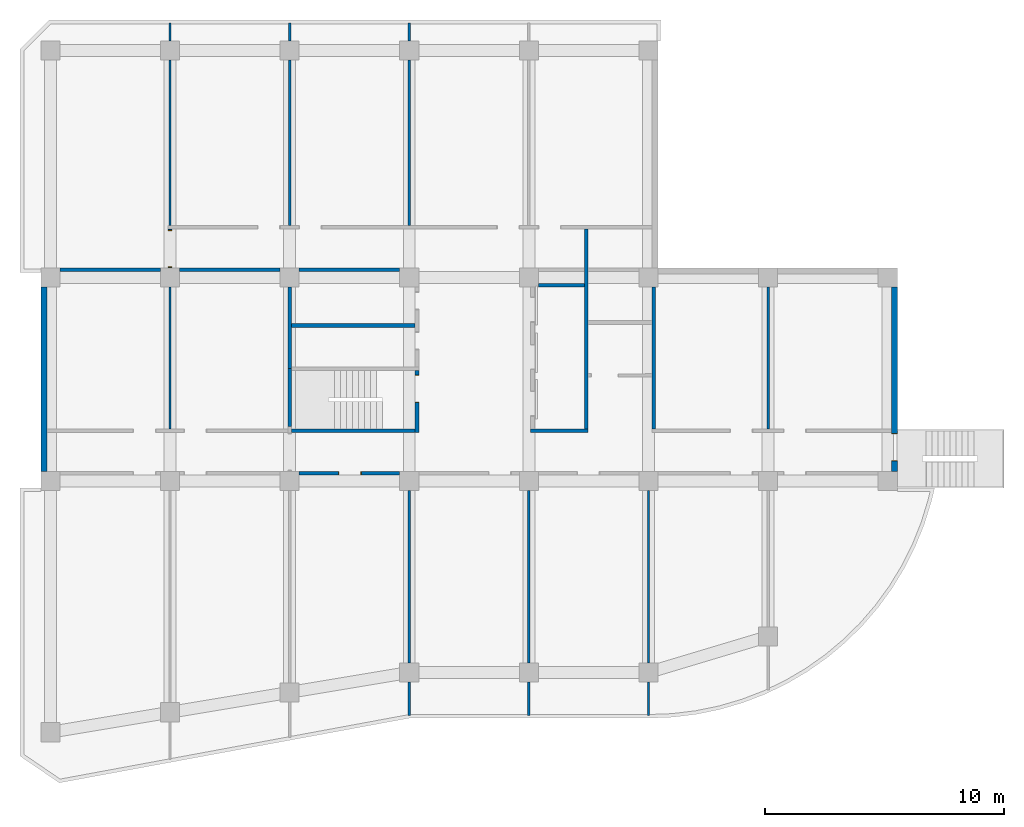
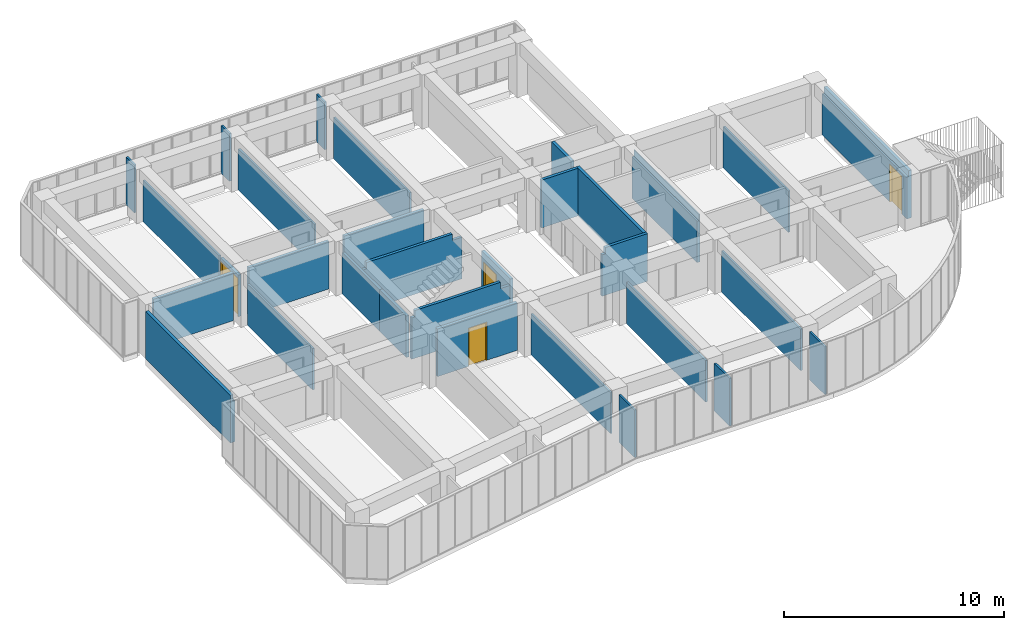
# One storey, part 2 of 5: 24 walls, 4 doors, 4 openings.
"""IFC2X3 building model written with IfcOpenShell, lengths in millimetres."""

import ifcopenshell
import ifcopenshell.guid

model = None  # the IFC model being written
_history = None  # IfcOwnerHistory: only IFC2X3 demands one
_inside = {}  # id of a spatial element -> (the spatial element, [elements in it])
_under = {}  # id of a project, library or spatial element -> (it, [spatial elements below it])
_declared = {}  # id of a project -> (the project, [libraries it declares])
_typed = {}  # id of a type object -> (the type object, [elements of that type])
_made_of = {}  # id of a material, layer set ... -> (it, [elements and type objects made of it])


def new_model(schema):
    """Start an empty IFC model of exactly this schema.

    Asked for "IFC4X3", IfcOpenShell would pick the latest addendum, in which some entities
    have other attributes; the version numbers below select the first issue.
    IFC2X3 requires an IfcOwnerHistory on every rooted entity: one is made here for all.
    """
    global model, _history
    if schema == "IFC4X3":
        model = ifcopenshell.file(schema_version=(4, 3, 0, 0))
    else:
        model = ifcopenshell.file(schema=schema)
    _inside.clear()
    _under.clear()
    _declared.clear()
    _typed.clear()
    _made_of.clear()
    _history = None
    if model.schema == "IFC2X3":
        org = make("IfcOrganization", Name="unknown")
        user = make(
            "IfcPersonAndOrganization",
            ThePerson=make("IfcPerson", FamilyName="unknown"),
            TheOrganization=org,
        )
        app = make(
            "IfcApplication",
            ApplicationDeveloper=org,
            Version="unknown",
            ApplicationFullName="unknown",
            ApplicationIdentifier="unknown",
        )
        _history = make(
            "IfcOwnerHistory",
            OwningUser=user,
            OwningApplication=app,
            ChangeAction="ADDED",
            CreationDate=0,
        )
    return model


def make(cls, **values):
    """One entity of the class cls with the attributes given. An attribute that is None is left unset."""
    return model.create_entity(
        cls, **{name: value for name, value in values.items() if value is not None}
    )


def entity(cls, *values):
    """Any entity or typed value of the class cls, its attributes in the order of the schema. None: left unset."""
    e = model.create_entity(cls)
    for i, value in enumerate(values):
        if value is not None:
            e[i] = value
    return e


def rooted(cls, **values):
    """An entity with a GlobalId (a new one), such as an element, a storey or a relation."""
    return make(cls, GlobalId=ifcopenshell.guid.new(), OwnerHistory=_history, **values)


def si_unit(unit_type, name, prefix=None):
    """IfcSIUnit, for example si_unit("LENGTHUNIT", "METRE", prefix="MILLI")."""
    return make("IfcSIUnit", UnitType=unit_type, Prefix=prefix, Name=name)


def converted_unit(unit_type, name, factor, base, dimensions=None, offset=None):
    """IfcConversionBasedUnit, such as the inch: factor (a typed value) times the base unit."""
    return make(
        "IfcConversionBasedUnit"
        if offset is None
        else "IfcConversionBasedUnitWithOffset",
        ConversionOffset=offset,
        Dimensions=None
        if dimensions is None
        else entity("IfcDimensionalExponents", *dimensions),
        UnitType=unit_type,
        Name=name,
        ConversionFactor=make(
            "IfcMeasureWithUnit", ValueComponent=factor, UnitComponent=base
        ),
    )


def derived_unit(unit_type, elements):
    """IfcDerivedUnit: a product of units, each with its exponent."""
    return make(
        "IfcDerivedUnit",
        Elements=[
            make("IfcDerivedUnitElement", Unit=unit, Exponent=power)
            for unit, power in elements
        ],
        UnitType=unit_type,
    )


def money_unit(currency):
    """IfcMonetaryUnit."""
    return make("IfcMonetaryUnit", Currency=currency)


def assignment(units):
    """IfcUnitAssignment: the units of a project."""
    return None if units is None else make("IfcUnitAssignment", Units=units)


def point(xyz):
    """IfcCartesianPoint."""
    return None if xyz is None else make("IfcCartesianPoint", Coordinates=xyz)


def direction(xyz):
    """IfcDirection."""
    return None if xyz is None else make("IfcDirection", DirectionRatios=xyz)


def frame(location, z_axis=None, x_axis=None):
    """IfcAxis2Placement3D, a coordinate frame: its origin and axes. An axis left out is left unset."""
    return make(
        "IfcAxis2Placement3D",
        Location=point(location),
        Axis=direction(z_axis),
        RefDirection=direction(x_axis),
    )


def origin_with_axes():
    """The frame at (0, 0, 0) with the z axis (0, 0, 1) and the x axis (1, 0, 0) written out."""
    return frame((0.0, 0.0, 0.0), z_axis=(0.0, 0.0, 1.0), x_axis=(1.0, 0.0, 0.0))


def place(relative_to, where):
    """IfcLocalPlacement: puts the frame where relative to a parent placement (None: the world)."""
    return make(
        "IfcLocalPlacement", PlacementRelTo=relative_to, RelativePlacement=where
    )


def context(
    kind, dimensions, precision=None, world=None, true_north=None, identifier=None
):
    """IfcGeometricRepresentationContext, for example the 3D "Model" context."""
    return make(
        "IfcGeometricRepresentationContext",
        ContextIdentifier=identifier,
        ContextType=kind,
        CoordinateSpaceDimension=dimensions,
        Precision=precision,
        WorldCoordinateSystem=world,
        TrueNorth=true_north,
    )


def subcontext(parent, identifier, kind, view, scale=None):
    """IfcGeometricRepresentationSubContext, for example "Body" below "Model"."""
    return make(
        "IfcGeometricRepresentationSubContext",
        ContextIdentifier=identifier,
        ContextType=kind,
        ParentContext=parent,
        TargetScale=scale,
        TargetView=view,
    )


def project(units=None, contexts=None):
    """IfcProject with its units and contexts."""
    return rooted(
        "IfcProject",
        Name="project",
        RepresentationContexts=contexts,
        UnitsInContext=assignment(units),
    )


def spatial(cls, under=None, at=None, **own):
    """A site, building, storey or space (cls), placed at a placement, below another one or the project."""
    s = rooted(cls, ObjectPlacement=at, **own)
    if under is not None:
        _under.setdefault(under.id(), (under, []))[1].append(s)
    return s


def faces_of(points, faces, orient=None, outer=None):
    """IfcFace entities. A face is a list of loops; a loop is a list of indices into points, from 0.

    orient and outer hold one flag for each loop. By default every Orientation is true, the
    first loop of a face is its IfcFaceOuterBound and the others are IfcFaceBound.
    """
    made = []
    for i, loops in enumerate(faces):
        bounds = []
        for j, loop in enumerate(loops):
            is_outer = j == 0 if outer is None else outer[i][j]
            bounds.append(
                make(
                    "IfcFaceOuterBound" if is_outer else "IfcFaceBound",
                    Bound=make("IfcPolyLoop", Polygon=[points[k] for k in loop]),
                    Orientation=True if orient is None else orient[i][j],
                )
            )
        made.append(make("IfcFace", Bounds=bounds))
    return made


def open_shell(faces, orient=None, outer=None):
    """The faces of one IfcOpenShell. surface_model builds it on its shared points."""
    return ("IfcOpenShell", faces, orient, outer)


def faceted_brep(points, faces, orient=None, outer=None, voids=None):
    """IfcFacetedBrep: a solid bounded by flat faces; with voids (closed shells), ...WithVoids."""
    shared = [point(p) for p in points]
    hull = make("IfcClosedShell", CfsFaces=faces_of(shared, faces, orient, outer))
    if voids is None:
        return make("IfcFacetedBrep", Outer=hull)
    return make(
        "IfcFacetedBrepWithVoids",
        Outer=hull,
        Voids=[
            make(cls, CfsFaces=faces_of(shared, fs, o, b)) for cls, fs, o, b in voids
        ],
    )


def surface_model(cls, points, shells):
    """IfcFaceBasedSurfaceModel or IfcShellBasedSurfaceModel (cls): surfaces that need not close."""
    shared = [point(p) for p in points]
    made = [make(c, CfsFaces=faces_of(shared, fs, o, b)) for c, fs, o, b in shells]
    if cls == "IfcFaceBasedSurfaceModel":
        return make(cls, FbsmFaces=made)
    return make(cls, SbsmBoundary=made)


def shape(context_of_items, identifier, shape_type, items):
    """IfcShapeRepresentation: the items that make up one representation, for example the "Body"."""
    return make(
        "IfcShapeRepresentation",
        ContextOfItems=context_of_items,
        RepresentationIdentifier=identifier,
        RepresentationType=shape_type,
        Items=items,
    )


def source(mapping_origin, context_of_items, identifier, shape_type, items):
    """IfcRepresentationMap: a shape defined once, which mapped items show again and again."""
    return make(
        "IfcRepresentationMap",
        MappingOrigin=mapping_origin,
        MappedRepresentation=shape(context_of_items, identifier, shape_type, items),
    )


def transform(
    local_origin,
    x_axis=None,
    y_axis=None,
    z_axis=None,
    scale=None,
    scale2=None,
    scale3=None,
    uniform=True,
):
    """IfcCartesianTransformationOperator3D, or its non-uniform kind. x_axis, y_axis, z_axis: its Axis1, 2, 3."""
    if uniform:
        return make(
            "IfcCartesianTransformationOperator3D",
            Axis1=direction(x_axis),
            Axis2=direction(y_axis),
            LocalOrigin=point(local_origin),
            Scale=scale,
            Axis3=direction(z_axis),
        )
    return make(
        "IfcCartesianTransformationOperator3DnonUniform",
        Axis1=direction(x_axis),
        Axis2=direction(y_axis),
        LocalOrigin=point(local_origin),
        Scale=scale,
        Axis3=direction(z_axis),
        Scale2=scale2,
        Scale3=scale3,
    )


def mapped(mapping_source, mapping_target):
    """IfcMappedItem: shows the shape of a source again, moved by a transform."""
    return make(
        "IfcMappedItem", MappingSource=mapping_source, MappingTarget=mapping_target
    )


def material(Name=None, Category=None):
    """IfcMaterial."""
    return make("IfcMaterial", Name=Name, Category=Category)


def made_of(thing, what):
    """Note that an element or type object is made of a material, layer set ...; save() writes the relation."""
    if what is not None:
        _made_of.setdefault(what.id(), (what, []))[1].append(thing)
    return thing


def type_object(cls, material=None, **own):
    """A type object (cls), such as IfcWallType, which elements share."""
    return made_of(rooted(cls, **own), material)


def element(
    cls,
    number,
    at=None,
    inside=None,
    cuts=None,
    type_object=None,
    material=None,
    context=None,
    identifier="Body",
    shape_type=None,
    held_by="IfcProductDefinitionShape",
    body=None,
    shapes=None,
    **own,
):
    """One element of the class cls, such as IfcWall. Its Tag is "e" and its number.

    at: its placement. inside: the storey or other place that contains it. cuts: it is an
    opening in that element (IfcRelVoidsElement). A single representation is given by context,
    identifier, shape_type and body (its items); several are given by shapes. held_by: the class
    of the entity that holds the representations. save() writes the other relations.
    """
    e = rooted(cls, Tag="e%d" % number, ObjectPlacement=at, **own)
    if body is not None:
        shapes = [shape(context, identifier, shape_type, body)]
    if shapes is not None:
        e.Representation = make(held_by, Representations=shapes)
    if inside is not None:
        _inside.setdefault(inside.id(), (inside, []))[1].append(e)
    if cuts is not None:
        rooted(
            "IfcRelVoidsElement", RelatingBuildingElement=cuts, RelatedOpeningElement=e
        )
    if type_object is not None:
        _typed.setdefault(type_object.id(), (type_object, []))[1].append(e)
    return made_of(e, material)


def fill(opening, filler):
    """IfcRelFillsElement: the door or window that sits in an opening."""
    return rooted(
        "IfcRelFillsElement",
        RelatingOpeningElement=opening,
        RelatedBuildingElement=filler,
    )


def aggregate(whole, parts):
    """IfcRelAggregates: a whole, such as a stair, and the parts it consists of."""
    return rooted("IfcRelAggregates", RelatingObject=whole, RelatedObjects=parts)


def save(model, path):
    """Write the relations noted so far, then the file.

    IfcRelAggregates (storeys below a building ...), IfcRelContainedInSpatialStructure (elements
    in a storey), IfcRelDefinesByType, IfcRelAssociatesMaterial and IfcRelDeclares: one each for
    every whole, place, type object, material and project.
    """
    for whole, parts in _under.values():
        aggregate(whole, parts)
    for where, things in _inside.values():
        rooted(
            "IfcRelContainedInSpatialStructure",
            RelatedElements=things,
            RelatingStructure=where,
        )
    for kind, things in _typed.values():
        rooted("IfcRelDefinesByType", RelatedObjects=things, RelatingType=kind)
    for what, things in _made_of.values():
        rooted("IfcRelAssociatesMaterial", RelatedObjects=things, RelatingMaterial=what)
    for by, libraries in _declared.values():
        rooted("IfcRelDeclares", RelatingContext=by, RelatedDefinitions=libraries)
    model.write(path)


model = new_model("IFC2X3")

# Units and contexts
model_context = context("Model", 3, precision=0.01, world=origin_with_axes(), true_north=direction((0.0, 1.0)))
body_context = subcontext(model_context, "Body", "Model", "MODEL_VIEW")
ifc_project = project(units=[si_unit("LENGTHUNIT", "METRE", prefix="MILLI"), si_unit("AREAUNIT", "SQUARE_METRE"), si_unit("VOLUMEUNIT", "CUBIC_METRE"), converted_unit("PLANEANGLEUNIT", "DEGREE", entity("IfcPlaneAngleMeasure", 0.0174532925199), si_unit("PLANEANGLEUNIT", "RADIAN"), dimensions=[0, 0, 0, 0, 0, 0, 0]), si_unit("SOLIDANGLEUNIT", "STERADIAN"), money_unit("JPY"), converted_unit("TIMEUNIT", "Year", entity("IfcTimeMeasure", 31556926.0), si_unit("TIMEUNIT", "SECOND"), dimensions=[0, 0, 1, 0, 0, 0, 0]), si_unit("MASSUNIT", "GRAM", prefix="KILO"), si_unit("THERMODYNAMICTEMPERATUREUNIT", "DEGREE_CELSIUS"), si_unit("LUMINOUSINTENSITYUNIT", "LUMEN"), si_unit("ENERGYUNIT", "JOULE", prefix="MEGA"), derived_unit("THERMALCONDUCTANCEUNIT", [(si_unit("POWERUNIT", "WATT"), 1), (si_unit("LENGTHUNIT", "METRE"), -1), (si_unit("THERMODYNAMICTEMPERATUREUNIT", "KELVIN"), -1)]), derived_unit("SPECIFICHEATCAPACITYUNIT", [(si_unit("ENERGYUNIT", "JOULE"), 1), (si_unit("MASSUNIT", "GRAM", prefix="KILO"), -1), (si_unit("THERMODYNAMICTEMPERATUREUNIT", "KELVIN"), -1)]), derived_unit("MASSDENSITYUNIT", [(si_unit("MASSUNIT", "GRAM", prefix="KILO"), 1), (si_unit("VOLUMEUNIT", "CUBIC_METRE"), -1)])], contexts=[model_context])

# Site, building, storey
site_placement = place(None, origin_with_axes())
site = spatial("IfcSite", under=ifc_project, at=site_placement, Name="サイト", CompositionType="ELEMENT")
building_placement = place(site_placement, origin_with_axes())
building = spatial("IfcBuilding", under=site, at=building_placement, Name="建築", CompositionType="ELEMENT")
storey_placement = place(building_placement, frame((0.0, 0.0, 21000.0), z_axis=(0.0, 0.0, 1.0), x_axis=(1.0, 0.0, 0.0)))
storey = spatial("IfcBuildingStorey", under=building, at=storey_placement, Name="8FL", CompositionType="ELEMENT", Elevation=21000.0)

# Wall
ifc_material_1 = material(Name="コンクリート")
wall_type_1 = type_object("IfcWallType", Name="コンクリート 150", PredefinedType="NOTDEFINED")
wall_1_placement = place(storey_placement, frame((20150.0, 8175.0, 0.0), z_axis=(0.0, 0.0, 1.0), x_axis=(1.0, 0.0, 0.0)))
element("IfcWall", 1, at=wall_1_placement, inside=storey, type_object=wall_type_1, material=ifc_material_1, Name="8FLW8", context=body_context, shape_type="Brep", body=[
    faceted_brep([(2175.0, 75.0, 0.0), (250.0, 75.0, 0.0), (250.0, 75.0, 2650.0), (2175.0, 75.0, 2650.0), (2175.0, -75.0, 0.0), (250.0, -75.0, 0.0), (250.0, -75.0, 2650.0), (2175.0, -75.0, 2650.0)], [[[0, 1, 2, 3]], [[4, 5, 1, 0]], [[5, 6, 2, 1]], [[3, 2, 6, 7]], [[7, 4, 0, 3]], [[7, 6, 5, 4]]]),
])

# Wall, opening, door
wall_2_placement = place(storey_placement, frame((15324.9999955, 2100.0, 0.0), z_axis=(0.0, 0.0, 1.0), x_axis=(0.0, 1.0, 0.0)))
wall_2 = element("IfcWall", 2, at=wall_2_placement, inside=storey, type_object=wall_type_1, material=ifc_material_1, Name="8FLW4", context=body_context, shape_type="Brep", body=[
    faceted_brep([(1180.0, -75.0, 0.0), (1180.0, -75.0, 2130.0), (2340.0, -75.0, 2130.0), (2340.0, -75.0, 0.0), (2525.0, -75.0, 0.0), (2525.0, -75.0, 2650.0), (-75.0, -75.0, 2650.0), (-75.0, -75.0, 0.0), (1180.0, 75.0, 0.0), (1180.0, 75.0, 2130.0), (2340.0, 75.0, 2130.0), (2340.0, 75.0, 0.0), (2525.0, 75.0, 0.0), (2525.0, 75.0, 2650.0), (-75.0, 75.0, 2650.0), (-75.0, 75.0, 0.0)], [[[0, 1, 2, 3, 4, 5, 6, 7]], [[1, 0, 8, 9]], [[2, 1, 9, 10]], [[3, 2, 10, 11]], [[3, 11, 12, 4]], [[12, 13, 5, 4]], [[14, 6, 5, 13]], [[7, 6, 14, 15]], [[8, 0, 7, 15]], [[9, 8, 15, 14, 13, 12, 11, 10]]]),
])
opening_1_placement = place(wall_2_placement, frame((1760.0, 0.0, 0.0), z_axis=(0.0, 0.0, 1.0), x_axis=(1.0, 0.0, 0.0)))
opening_1 = element("IfcOpeningElement", 3, at=opening_1_placement, cuts=wall_2, Name="8FLFSD2", context=body_context, shape_type="Brep", body=[
    faceted_brep([(-580.0, -160.0, 0.0), (-580.0, -160.0, 2130.0), (-580.0, 160.0, 2130.0), (-580.0, 160.0, 0.0), (580.0, -160.0, 0.0), (580.0, -160.0, 2130.0), (580.0, 160.0, 2130.0), (580.0, 160.0, 0.0)], [[[0, 1, 2, 3]], [[0, 4, 5, 1]], [[1, 5, 6, 2]], [[3, 2, 6, 7]], [[4, 0, 3, 7]], [[5, 4, 7, 6]]]),
])
door_style_1 = type_object("IfcDoorStyle", Name="片開き戸", ConstructionType="NOTDEFINED", OperationType="NOTDEFINED", ParameterTakesPrecedence=False, Sizeable=False)
shared_shape_1 = source(origin_with_axes(), body_context, "Body", "SurfaceModel", [
    surface_model("IfcShellBasedSurfaceModel", [(-550.0, -85.0, 0.0), (-550.0, -85.0, 2100.0), (550.0, -85.0, 2100.0), (550.0, -85.0, 0.0)], [open_shell([[[0, 1, 2, 3]]])]),
    surface_model("IfcShellBasedSurfaceModel", [(-580.0, -10.0, 0.0), (-580.0, -10.0, 2130.0), (580.0, -10.0, 2130.0), (580.0, -10.0, 0.0), (550.0, -10.0, 0.0), (550.0, -10.0, 2100.0), (-550.0, -10.0, 2100.0), (-550.0, -10.0, 0.0)], [open_shell([[[0, 1, 2, 3, 4, 5, 6, 7]]])]),
    surface_model("IfcShellBasedSurfaceModel", [(-580.0, -160.0, 0.0), (-580.0, -160.0, 2130.0), (580.0, -160.0, 2130.0), (580.0, -160.0, 0.0), (550.0, -160.0, 0.0), (550.0, -160.0, 2100.0), (-550.0, -160.0, 2100.0), (-550.0, -160.0, 0.0)], [open_shell([[[0, 1, 2, 3, 4, 5, 6, 7]]])]),
    surface_model("IfcShellBasedSurfaceModel", [(-550.0, -10.0, 0.0), (-550.0, -10.0, 2100.0), (-550.0, -160.0, 2100.0), (-550.0, -160.0, 0.0), (550.0, -10.0, 2100.0), (550.0, -160.0, 2100.0), (-580.0, -10.0, 0.0), (-580.0, -160.0, 0.0), (550.0, -10.0, 0.0), (550.0, -160.0, 0.0), (-580.0, -10.0, 2130.0), (-580.0, -160.0, 2130.0), (580.0, -10.0, 0.0), (580.0, -160.0, 0.0), (580.0, -10.0, 2130.0), (580.0, -160.0, 2130.0)], [open_shell([[[0, 1, 2, 3]], [[1, 4, 5, 2]], [[6, 0, 3, 7]], [[4, 8, 9, 5]], [[10, 6, 7, 11]], [[8, 12, 13, 9]], [[14, 10, 11, 15]], [[12, 14, 15, 13]]])]),
])
door_1_placement = place(opening_1_placement, frame((-550.0, 0.0, 0.0), z_axis=(0.0, 0.0, 1.0), x_axis=(1.0, 0.0, 0.0)))
door_1 = element("IfcDoor", 4, at=door_1_placement, inside=storey, type_object=door_style_1, Name="8FLFSD2", OverallHeight=2165.0, OverallWidth=1230.0, context=body_context, shape_type="MappedRepresentation", body=[
    mapped(shared_shape_1, transform((550.0, 85.0, 0.0))),
])
fill(opening_1, door_1)

# Wall
wall_3_placement = place(storey_placement, frame((10000.0, 6500.0, 0.0), z_axis=(0.0, 0.0, 1.0), x_axis=(1.0, 0.0, 0.0)))
element("IfcWall", 5, at=wall_3_placement, inside=storey, type_object=wall_type_1, material=ifc_material_1, Name="8FLW5", context=body_context, shape_type="Brep", body=[
    faceted_brep([(75.0, 75.0, 0.0), (75.0, 75.0, 2300.0), (250.0, 75.0, 2300.0), (250.0, 75.0, 2650.0), (4750.0, 75.0, 2650.0), (4750.0, 75.0, 2300.0), (5250.0, 75.0, 2300.0), (5249.99999555, 75.0, 0.0), (75.0, -75.0, 0.0), (75.0, -75.0, 2300.0), (250.0, -75.0, 2300.0), (250.0, -75.0, 2650.0), (4750.0, -75.0, 2650.0), (4750.0, -75.0, 2300.0), (5250.0, -75.0, 2300.0), (5249.99999555, -75.0, 0.0)], [[[0, 1, 2, 3, 4, 5, 6, 7]], [[8, 9, 1, 0]], [[10, 2, 1, 9]], [[10, 11, 3, 2]], [[4, 3, 11, 12]], [[13, 5, 4, 12]], [[13, 14, 6, 5]], [[7, 6, 14, 15]], [[8, 0, 7, 15]], [[11, 10, 9, 8, 15, 14, 13, 12]]]),
])

# Wall, opening, door
wall_4_placement = place(storey_placement, frame((10000.0, 324.999998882, 0.0), z_axis=(0.0, 0.0, 1.0), x_axis=(1.0, 0.0, 0.0)))
wall_4 = element("IfcWall", 6, at=wall_4_placement, inside=storey, type_object=wall_type_1, material=ifc_material_1, Name="8FLW4", context=body_context, shape_type="Brep", body=[
    faceted_brep([(2034.99999315, 75.0000011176, 2130.0), (2034.99999315, 75.0000011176, 0.0), (400.0, 75.0000011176, 0.0), (400.0, 75.0000011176, 2650.0), (4600.0, 75.0000011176, 2650.0), (4600.0, 75.0000011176, 0.0), (2994.99999315, 75.0000011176, 0.0), (2994.99999315, 75.0000011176, 2130.0), (2034.99999315, -74.9999988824, 2130.0), (2034.99999315, -75.0, 0.0), (400.0, -75.0, 0.0), (400.0, -74.9999988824, 2650.0), (4600.0, -74.9999988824, 2650.0), (4600.0, -75.0, 0.0), (2994.99999315, -75.0, 0.0), (2994.99999315, -74.9999988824, 2130.0)], [[[0, 1, 2, 3, 4, 5, 6, 7]], [[1, 0, 8, 9]], [[1, 9, 10, 2]], [[11, 3, 2, 10]], [[3, 11, 12, 4]], [[5, 4, 12, 13]], [[14, 6, 5, 13]], [[7, 6, 14, 15]], [[0, 7, 15, 8]], [[15, 14, 13, 12, 11, 10, 9, 8]]]),
])
opening_2_placement = place(wall_4_placement, frame((2514.99999315, 0.0, 0.0), z_axis=(0.0, 0.0, 1.0), x_axis=(1.0, 0.0, 0.0)))
opening_2 = element("IfcOpeningElement", 7, at=opening_2_placement, cuts=wall_4, Name="8FLSD7", context=body_context, shape_type="Brep", body=[
    faceted_brep([(480.0, 160.0, 0.0), (480.0, 160.0, 2130.0), (480.0, -160.0, 2130.0), (480.0, -160.0, 0.0), (-480.0, 160.0, 0.0), (-480.0, 160.0, 2130.0), (-480.0, -160.0, 2130.0), (-480.0, -160.0, 0.0)], [[[0, 1, 2, 3]], [[0, 4, 5, 1]], [[1, 5, 6, 2]], [[3, 2, 6, 7]], [[4, 0, 3, 7]], [[5, 4, 7, 6]]]),
])
shared_shape_2 = source(origin_with_axes(), body_context, "Body", "SurfaceModel", [
    surface_model("IfcShellBasedSurfaceModel", [(-450.0, 85.0, 0.0), (-450.0, 85.0, 2100.0), (450.0, 85.0, 2100.0), (450.0, 85.0, 0.0)], [open_shell([[[0, 1, 2, 3]]])]),
    surface_model("IfcShellBasedSurfaceModel", [(-480.0, 160.0, 0.0), (-480.0, 160.0, 2130.0), (480.0, 160.0, 2130.0), (480.0, 160.0, 0.0), (450.0, 160.0, 0.0), (450.0, 160.0, 2100.0), (-450.0, 160.0, 2100.0), (-450.0, 160.0, 0.0)], [open_shell([[[0, 1, 2, 3, 4, 5, 6, 7]]])]),
    surface_model("IfcShellBasedSurfaceModel", [(-480.0, 10.0, 0.0), (-480.0, 10.0, 2130.0), (480.0, 10.0, 2130.0), (480.0, 10.0, 0.0), (450.0, 10.0, 0.0), (450.0, 10.0, 2100.0), (-450.0, 10.0, 2100.0), (-450.0, 10.0, 0.0)], [open_shell([[[0, 1, 2, 3, 4, 5, 6, 7]]])]),
    surface_model("IfcShellBasedSurfaceModel", [(-450.0, 160.0, 0.0), (-450.0, 160.0, 2100.0), (-450.0, 10.0, 2100.0), (-450.0, 10.0, 0.0), (450.0, 160.0, 2100.0), (450.0, 10.0, 2100.0), (-480.0, 160.0, 0.0), (-480.0, 10.0, 0.0), (450.0, 160.0, 0.0), (450.0, 10.0, 0.0), (-480.0, 160.0, 2130.0), (-480.0, 10.0, 2130.0), (480.0, 160.0, 0.0), (480.0, 10.0, 0.0), (480.0, 160.0, 2130.0), (480.0, 10.0, 2130.0)], [open_shell([[[0, 1, 2, 3]], [[1, 4, 5, 2]], [[6, 0, 3, 7]], [[4, 8, 9, 5]], [[10, 6, 7, 11]], [[8, 12, 13, 9]], [[14, 10, 11, 15]], [[12, 14, 15, 13]]])]),
])
door_2_placement = place(opening_2_placement, frame((450.0, 0.0, 0.0), z_axis=(0.0, 0.0, 1.0), x_axis=(-1.0, 0.0, 0.0)))
door_2 = element("IfcDoor", 8, at=door_2_placement, inside=storey, type_object=door_style_1, Name="8FLSD7", OverallHeight=2165.0, OverallWidth=1030.0, context=body_context, shape_type="MappedRepresentation", body=[
    mapped(shared_shape_2, transform((450.0, -85.0, 0.0))),
])
fill(opening_2, door_2)

# Walls
wall_5_placement = place(storey_placement, frame((10000.0, 4700.0, 0.0), z_axis=(0.0, 0.0, 1.0), x_axis=(0.0, 1.0, 0.0)))
element("IfcWall", 9, at=wall_5_placement, inside=storey, type_object=wall_type_1, material=ifc_material_1, Name="8FLW1", context=body_context, shape_type="Brep", body=[
    faceted_brep([(0.0, -75.0, 0.0), (3400.0, -75.0, 0.0), (3400.0, -75.0, 2300.0), (0.0, -75.0, 2300.0), (0.0, 75.0, 0.0), (3400.0, 75.0, 0.0), (3400.0, 75.0, 2300.0), (0.0, 75.0, 2300.0)], [[[0, 1, 2, 3]], [[4, 5, 1, 0]], [[5, 6, 2, 1]], [[3, 2, 6, 7]], [[4, 0, 3, 7]], [[7, 6, 5, 4]]]),
])
wall_6_placement = place(storey_placement, frame((10000.0, 4700.0, 0.0), z_axis=(0.0, 0.0, 1.0), x_axis=(0.0, -1.0, 0.0)))
element("IfcWall", 10, at=wall_6_placement, inside=storey, type_object=wall_type_1, material=ifc_material_1, Name="8FLW2", context=body_context, shape_type="Brep", body=[
    faceted_brep([(0.0, -75.0, 0.0), (0.0, -75.0, 2300.0), (0.0, 75.0, 2300.0), (0.0, 75.0, 0.0), (2425.0, -75.0, 0.0), (2425.0, -75.0, 2300.0), (2425.0, 75.0, 2300.0), (2425.0, 75.0, 0.0)], [[[0, 1, 2, 3]], [[4, 5, 1, 0]], [[5, 6, 2, 1]], [[3, 2, 6, 7]], [[4, 0, 3, 7]], [[7, 6, 5, 4]]]),
])
wall_7_placement = place(storey_placement, frame((22400.0, 2100.0, 0.0), z_axis=(0.0, 0.0, 1.0), x_axis=(0.0, 1.0, 0.0)))
element("IfcWall", 11, at=wall_7_placement, inside=storey, type_object=wall_type_1, material=ifc_material_1, Name="8FLW8", context=body_context, shape_type="Brep", body=[
    faceted_brep([(8425.0, 75.0, 2650.0), (6650.0, 75.0, 2650.0), (6650.0, -75.0, 2650.0), (8425.0, -75.0, 2650.0), (6150.0, 75.0, 2300.0), (6650.0, 75.0, 2300.0), (8425.0, 75.0, 0.0), (75.0, 75.0, 0.0), (75.0, 75.0, 2650.0), (6150.0, 75.0, 2650.0), (6650.0, -75.0, 2300.0), (6150.0, -75.0, 2300.0), (6150.0, -75.0, 2650.0), (75.0, -75.0, 2650.0), (75.0, -75.0, 0.0), (8425.0, -75.0, 0.0)], [[[0, 1, 2, 3]], [[4, 5, 1, 0, 6, 7, 8, 9]], [[5, 10, 2, 1]], [[10, 11, 12, 13, 14, 15, 3, 2]], [[15, 6, 0, 3]], [[4, 11, 10, 5]], [[14, 7, 6, 15]], [[7, 14, 13, 8]], [[13, 12, 9, 8]], [[4, 9, 12, 11]]]),
])
wall_8_placement = place(storey_placement, frame((20150.0, 2100.0, 0.0), z_axis=(0.0, 0.0, 1.0), x_axis=(1.0, 0.0, 0.0)))
element("IfcWall", 12, at=wall_8_placement, inside=storey, type_object=wall_type_1, material=ifc_material_1, Name="8FLW7", context=body_context, shape_type="Brep", body=[
    faceted_brep([(-75.0, 75.0, 0.0), (-75.0, 75.0, 2300.0), (100.0, 75.0, 2300.0), (100.0, 75.0, 2650.0), (2325.0, 75.0, 2650.0), (2325.0, 75.0, 0.0), (-75.0, -75.0, 0.0), (-75.0, -75.0, 2300.0), (100.0, -75.0, 2300.0), (100.0, -75.0, 2650.0), (2325.0, -75.0, 2650.0), (2325.0, -75.0, 0.0)], [[[0, 1, 2, 3, 4, 5]], [[6, 7, 1, 0]], [[8, 2, 1, 7]], [[8, 9, 3, 2]], [[4, 3, 9, 10]], [[11, 5, 4, 10]], [[6, 0, 5, 11]], [[9, 8, 7, 6, 11, 10]]]),
])
wall_9_placement = place(storey_placement, frame((25224.9999795, 2100.0, 0.0), z_axis=(0.0, 0.0, 1.0), x_axis=(0.0, 1.0, 0.0)))
element("IfcWall", 13, at=wall_9_placement, inside=storey, type_object=wall_type_1, material=ifc_material_1, Name="8FLW5", context=body_context, shape_type="Brep", body=[
    faceted_brep([(75.0, -75.0, 0.0), (6000.0, -75.0, 0.0), (6000.0, -75.0, 2650.0), (75.0, -75.0, 2650.0), (75.0, 75.0, 0.0), (6000.0, 75.0, 0.0), (6000.0, -25.0000205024, 2300.0), (6000.0, -25.0000205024, 2650.0), (6000.0, 75.0, 2300.0), (75.0, -25.0000205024, 2650.0), (75.0, -25.0000205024, 2300.0), (75.0, 75.0, 2300.0)], [[[0, 1, 2, 3]], [[4, 5, 1, 0]], [[6, 7, 2, 1, 5, 8]], [[3, 2, 7, 9]], [[3, 9, 10, 11, 4, 0]], [[11, 8, 5, 4]], [[9, 7, 6, 10]], [[10, 6, 8, 11]]]),
])
wall_10_placement = place(storey_placement, frame((15324.9999955, 8825.000045, 0.0), z_axis=(0.0, 0.0, 1.0), x_axis=(-1.0, 0.0, 0.0)))
element("IfcWall", 14, at=wall_10_placement, inside=storey, type_object=wall_type_1, material=ifc_material_1, Name="8FLW8", context=body_context, shape_type="Brep", body=[
    faceted_brep([(4924.99999555, 75.0, 2650.0), (724.999995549, 75.0, 2650.0), (724.999995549, -74.999955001, 2650.0), (4924.99999555, -74.999955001, 2650.0), (4924.99999555, 75.0, 0.0), (724.999995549, 75.0, 0.0), (724.999995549, -74.999955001, 0.0), (4924.99999555, -74.999955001, 0.0)], [[[0, 1, 2, 3]], [[4, 5, 1, 0]], [[5, 6, 2, 1]], [[3, 2, 6, 7]], [[4, 0, 3, 7]], [[7, 6, 5, 4]]]),
])
for number, where, z_axis, x_axis, name in (
    (15, (10000.0, 8825.000045, 0.0), (0.0, 0.0, 1.0), (-1.0, 0.0, 0.0), "8FLW9"),
    (16, (5000.0, 8825.000045, 0.0), (0.0, 0.0, 1.0), (-1.0, 0.0, 0.0), "8FLW0"),
):
    element("IfcWall", number, at=place(storey_placement, frame(where, z_axis=z_axis, x_axis=x_axis)), inside=storey, type_object=wall_type_1, material=ifc_material_1, Name=name, context=body_context, shape_type="Brep", body=[
        faceted_brep([(4600.0, 75.0, 2650.0), (400.0, 75.0, 2650.0), (400.0, -74.999955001, 2650.0), (4600.0, -74.999955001, 2650.0), (4600.0, 75.0, 0.0), (400.0, 75.0, 0.0), (400.0, -74.999955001, 0.0), (4600.0, -74.999955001, 0.0)], [[[0, 1, 2, 3]], [[4, 5, 1, 0]], [[5, 6, 2, 1]], [[3, 2, 6, 7]], [[4, 0, 3, 7]], [[7, 6, 5, 4]]]),
    ])
wall_11_placement = place(storey_placement, frame((10000.0, 2100.0, 0.0), z_axis=(0.0, 0.0, 1.0), x_axis=(1.0, 0.0, 0.0)))
element("IfcWall", 17, at=wall_11_placement, inside=storey, type_object=wall_type_1, material=ifc_material_1, Name="8FLW3", context=body_context, shape_type="Brep", body=[
    faceted_brep([(75.0, 75.0, 0.0), (75.0, 75.0, 2300.0), (250.0, 75.0, 2300.0), (250.0, 75.0, 2650.0), (3631.20524398, 75.0, 2650.0), (4750.0, 75.0, 2650.0), (4750.0, 75.0, 2300.0), (5250.0, 75.0, 2300.0), (5249.99999555, 75.0, 0.0), (75.0, -75.0, 0.0), (75.0, -75.0, 2300.0), (250.0, -75.0, 2300.0), (250.0, -75.0, 2650.0), (4750.0, -75.0, 2650.0), (4750.0, -75.0, 2300.0), (5250.0, -75.0, 2300.0), (5249.99999555, -75.0, 0.0)], [[[0, 1, 2, 3, 4, 5, 6, 7, 8]], [[9, 10, 1, 0]], [[11, 2, 1, 10]], [[11, 12, 3, 2]], [[4, 3, 12, 13, 5]], [[14, 6, 5, 13]], [[14, 15, 7, 6]], [[8, 7, 15, 16]], [[0, 8, 16, 9]], [[12, 11, 10, 9, 16, 15, 14, 13]]]),
])

# Wall, opening, door
wall_12_placement = place(storey_placement, frame((5000.0, 10600.0, 0.0), z_axis=(0.0, 0.0, 1.0), x_axis=(0.0, -1.0, 0.0)))
wall_12 = element("IfcWall", 18, at=wall_12_placement, inside=storey, type_object=wall_type_1, material=ifc_material_1, Name="8FLW9", context=body_context, shape_type="Brep", body=[
    faceted_brep([(1670.0, 75.0, 0.0), (1670.0, 75.0, 2130.0), (110.0, 75.0, 2130.0), (110.0, 75.0, 0.0), (75.0, 75.0, 0.0), (75.0, 75.0, 2300.0), (1699.999955, 75.0, 2300.0), (1699.999955, 75.0, 0.0), (1670.0, -75.0, 0.0), (1670.0, -75.0, 2130.0), (110.0, -75.0, 2130.0), (110.0, -75.0, 0.0), (75.0, -75.0, 0.0), (75.0, -75.0, 2300.0), (1699.999955, -75.0, 2300.0), (1699.999955, 0.0, 2300.0), (1699.999955, 0.0, 0.0), (1699.999955, -75.0, 0.0)], [[[0, 1, 2, 3, 4, 5, 6, 7]], [[1, 0, 8, 9]], [[2, 1, 9, 10]], [[3, 2, 10, 11]], [[3, 11, 12, 4]], [[12, 13, 5, 4]], [[6, 5, 13, 14, 15]], [[7, 6, 15, 16]], [[8, 0, 7, 16, 17]], [[9, 8, 17, 14, 13, 12, 11, 10]], [[16, 15, 14, 17]]]),
])
opening_3_placement = place(wall_12_placement, frame((890.0, 0.0, 0.0), z_axis=(0.0, 0.0, 1.0), x_axis=(1.0, 0.0, 0.0)))
opening_3 = element("IfcOpeningElement", 19, at=opening_3_placement, cuts=wall_12, Name="8FLSD3", context=body_context, shape_type="Brep", body=[
    faceted_brep([(-780.0, -160.0, 0.0), (-780.0, -160.0, 2130.0), (-780.0, 160.0, 2130.0), (-780.0, 160.0, 0.0), (780.0, -160.0, 0.0), (780.0, -160.0, 2130.0), (780.0, 160.0, 2130.0), (780.0, 160.0, 0.0)], [[[0, 1, 2, 3]], [[0, 4, 5, 1]], [[1, 5, 6, 2]], [[3, 2, 6, 7]], [[4, 0, 3, 7]], [[5, 4, 7, 6]]]),
])
door_style_2 = type_object("IfcDoorStyle", Name="親子開き戸", ConstructionType="NOTDEFINED", OperationType="NOTDEFINED", ParameterTakesPrecedence=False, Sizeable=False)
shared_shape_3 = source(origin_with_axes(), body_context, "Body", "SurfaceModel", [
    surface_model("IfcShellBasedSurfaceModel", [(-150.0, -85.0, 0.0), (-150.0, -85.0, 2100.0), (750.0, -85.0, 2100.0), (750.0, -85.0, 0.0)], [open_shell([[[0, 1, 2, 3]]])]),
    surface_model("IfcShellBasedSurfaceModel", [(-150.0, -85.0, 0.0), (-750.0, -85.0, 0.0), (-750.0, -85.0, 2100.0), (-150.0, -85.0, 2100.0)], [open_shell([[[0, 1, 2, 3]]])]),
    surface_model("IfcShellBasedSurfaceModel", [(-780.0, -10.0, 0.0), (-780.0, -10.0, 2130.0), (780.0, -10.0, 2130.0), (780.0, -10.0, 0.0), (750.0, -10.0, 0.0), (750.0, -10.0, 2100.0), (-750.0, -10.0, 2100.0), (-750.0, -10.0, 0.0)], [open_shell([[[0, 1, 2, 3, 4, 5, 6, 7]]])]),
    surface_model("IfcShellBasedSurfaceModel", [(-780.0, -160.0, 0.0), (-780.0, -160.0, 2130.0), (780.0, -160.0, 2130.0), (780.0, -160.0, 0.0), (750.0, -160.0, 0.0), (750.0, -160.0, 2100.0), (-750.0, -160.0, 2100.0), (-750.0, -160.0, 0.0)], [open_shell([[[0, 1, 2, 3, 4, 5, 6, 7]]])]),
    surface_model("IfcShellBasedSurfaceModel", [(-750.0, -10.0, 0.0), (-750.0, -10.0, 2100.0), (-750.0, -160.0, 2100.0), (-750.0, -160.0, 0.0), (750.0, -10.0, 2100.0), (750.0, -160.0, 2100.0), (-780.0, -10.0, 0.0), (-780.0, -160.0, 0.0), (750.0, -10.0, 0.0), (750.0, -160.0, 0.0), (-780.0, -10.0, 2130.0), (-780.0, -160.0, 2130.0), (780.0, -10.0, 0.0), (780.0, -160.0, 0.0), (780.0, -10.0, 2130.0), (780.0, -160.0, 2130.0)], [open_shell([[[0, 1, 2, 3]], [[1, 4, 5, 2]], [[6, 0, 3, 7]], [[4, 8, 9, 5]], [[10, 6, 7, 11]], [[8, 12, 13, 9]], [[14, 10, 11, 15]], [[12, 14, 15, 13]]])]),
])
door_3_placement = place(opening_3_placement, frame((-750.0, 0.0, 0.0), z_axis=(0.0, 0.0, 1.0), x_axis=(1.0, 0.0, 0.0)))
door_3 = element("IfcDoor", 20, at=door_3_placement, inside=storey, type_object=door_style_2, Name="8FLSD3", OverallHeight=2165.0, OverallWidth=1630.0, context=body_context, shape_type="MappedRepresentation", body=[
    mapped(shared_shape_3, transform((750.0, 85.0, 0.0))),
])
fill(opening_3, door_3)

wall_type_2 = type_object("IfcWallType", Name="コンクリート 250", PredefinedType="NOTDEFINED")
wall_13_placement = place(storey_placement, frame((35274.9999654, -400.0, 0.0), z_axis=(0.0, 0.0, 1.0), x_axis=(0.0, 1.0, 0.0)))
wall_13 = element("IfcWall", 21, at=wall_13_placement, inside=storey, type_object=wall_type_2, material=ifc_material_1, Name="8FLW0", context=body_context, shape_type="Brep", body=[
    faceted_brep([(1230.0, -125.000034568, 0.0), (1230.0, -125.000034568, 2130.0), (2390.0, -125.000034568, 2130.0), (2390.0, -125.000034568, 0.0), (8500.0, -125.000034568, 0.0), (8500.0, -125.000034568, 2650.0), (800.0, -125.000034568, 2650.0), (800.0, -125.000034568, 0.0), (1230.0, 125.0, 0.0), (1230.0, 125.0, 2130.0), (2390.0, 125.0, 2130.0), (2390.0, 125.0, 0.0), (8500.0, 125.0, 0.0), (8500.0, 125.0, 2300.0), (8500.0, 24.9999654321, 2300.0), (8500.0, 24.9999654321, 2650.0), (800.0, 24.9999654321, 2650.0), (800.0, 24.9999654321, 2300.0), (800.0, 125.0, 2300.0), (800.0, 125.0, 0.0)], [[[0, 1, 2, 3, 4, 5, 6, 7]], [[1, 0, 8, 9]], [[2, 1, 9, 10]], [[3, 2, 10, 11]], [[3, 11, 12, 4]], [[4, 12, 13, 14, 15, 5]], [[16, 6, 5, 15]], [[16, 17, 18, 19, 7, 6]], [[8, 0, 7, 19]], [[9, 8, 19, 18, 13, 12, 11, 10]], [[18, 17, 14, 13]], [[17, 16, 15, 14]]]),
])
opening_4_placement = place(wall_13_placement, frame((1810.0, 0.0, 0.0), z_axis=(0.0, 0.0, 1.0), x_axis=(1.0, 0.0, 0.0)))
opening_4 = element("IfcOpeningElement", 22, at=opening_4_placement, cuts=wall_13, Name="8FLFSD2", context=body_context, shape_type="Brep", body=[
    faceted_brep([(-580.0, -260.0, 0.0), (-580.0, -260.0, 2130.0), (-580.0, 260.0, 2130.0), (-580.0, 260.0, 0.0), (580.0, -260.0, 0.0), (580.0, -260.0, 2130.0), (580.0, 260.0, 2130.0), (580.0, 260.0, 0.0)], [[[0, 1, 2, 3]], [[0, 4, 5, 1]], [[1, 5, 6, 2]], [[3, 2, 6, 7]], [[4, 0, 3, 7]], [[5, 4, 7, 6]]]),
])
shared_shape_4 = source(origin_with_axes(), body_context, "Body", "SurfaceModel", [
    surface_model("IfcShellBasedSurfaceModel", [(550.0, -135.0, 0.0), (-550.0, -135.0, 0.0), (-550.0, -135.0, 2100.0), (550.0, -135.0, 2100.0)], [open_shell([[[0, 1, 2, 3]]])]),
    surface_model("IfcShellBasedSurfaceModel", [(580.0, -10.0, 0.0), (550.0, -10.0, 0.0), (550.0, -10.0, 2100.0), (-550.0, -10.0, 2100.0), (-550.0, -10.0, 0.0), (-580.0, -10.0, 0.0), (-580.0, -10.0, 2130.0), (580.0, -10.0, 2130.0)], [open_shell([[[0, 1, 2, 3, 4, 5, 6, 7]]])]),
    surface_model("IfcShellBasedSurfaceModel", [(580.0, -260.0, 0.0), (550.0, -260.0, 0.0), (550.0, -260.0, 2100.0), (-550.0, -260.0, 2100.0), (-550.0, -260.0, 0.0), (-580.0, -260.0, 0.0), (-580.0, -260.0, 2130.0), (580.0, -260.0, 2130.0)], [open_shell([[[0, 1, 2, 3, 4, 5, 6, 7]]])]),
    surface_model("IfcShellBasedSurfaceModel", [(550.0, -10.0, 0.0), (550.0, -260.0, 0.0), (550.0, -260.0, 2100.0), (550.0, -10.0, 2100.0), (580.0, -10.0, 0.0), (580.0, -260.0, 0.0), (-550.0, -260.0, 2100.0), (-550.0, -10.0, 2100.0), (580.0, -10.0, 2130.0), (580.0, -260.0, 2130.0), (-550.0, -260.0, 0.0), (-550.0, -10.0, 0.0), (-580.0, -10.0, 2130.0), (-580.0, -260.0, 2130.0), (-580.0, -260.0, 0.0), (-580.0, -10.0, 0.0)], [open_shell([[[0, 1, 2, 3]], [[4, 5, 1, 0]], [[3, 2, 6, 7]], [[8, 9, 5, 4]], [[7, 6, 10, 11]], [[12, 13, 9, 8]], [[11, 10, 14, 15]], [[15, 14, 13, 12]]])]),
])
door_4_placement = place(opening_4_placement, frame((550.0, 0.0, 0.0), z_axis=(0.0, 0.0, 1.0), x_axis=(-1.0, 0.0, 0.0)))
door_4 = element("IfcDoor", 23, at=door_4_placement, inside=storey, type_object=door_style_1, Name="8FLFSD2", OverallHeight=2165.0, OverallWidth=1230.0, context=body_context, shape_type="MappedRepresentation", body=[
    mapped(shared_shape_4, transform((550.0, 135.0, 0.0))),
])
fill(opening_4, door_4)

# Walls
wall_14_placement = place(storey_placement, frame((-275.00006329, 8825.000045, 0.0), z_axis=(0.0, 0.0, 1.0), x_axis=(0.0, -1.0, 0.0)))
element("IfcWall", 24, at=wall_14_placement, inside=storey, type_object=wall_type_2, material=ifc_material_1, Name="8FLW1", context=body_context, shape_type="Brep", body=[
    faceted_brep([(725.000044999, 25.0000632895, 2300.0), (8425.000045, 25.0000632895, 2300.0), (8425.000045, 125.0, 2300.0), (725.000044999, 125.0, 2300.0), (725.000044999, 25.0000632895, 2650.0), (8425.000045, 25.0000632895, 2650.0), (8425.000045, -124.99993671, 0.0), (8425.000045, 125.0, 0.0), (8425.000045, -124.99993671, 2650.0), (725.000044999, 125.0, 0.0), (725.000044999, -124.99993671, 0.0), (725.000044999, -124.99993671, 2650.0)], [[[0, 1, 2, 3]], [[4, 5, 1, 0]], [[6, 7, 2, 1, 5, 8]], [[3, 2, 7, 9]], [[4, 0, 3, 9, 10, 11]], [[11, 8, 5, 4]], [[9, 7, 6, 10]], [[10, 6, 8, 11]]]),
])
ifc_material_2 = material(Name="石膏ボード")
wall_type_3 = type_object("IfcWallType", Name="石膏ボード 100", PredefinedType="NOTDEFINED")
wall_15_placement = place(storey_placement, frame((30000.0, 2100.0, 0.0), z_axis=(0.0, 0.0, 1.0), x_axis=(0.0, 1.0, 0.0)))
element("IfcWall", 25, at=wall_15_placement, inside=storey, type_object=wall_type_3, material=ifc_material_2, Name="8FLW12", context=body_context, shape_type="Brep", body=[
    faceted_brep([(75.0, -50.0, 0.0), (6000.0, -50.0, 0.0), (6000.0, -50.0, 2300.0), (75.0, -50.0, 2300.0), (75.0, 50.0, 0.0), (6000.0, 50.0, 0.0), (6000.0, 50.0, 2300.0), (75.0, 50.0, 2300.0)], [[[0, 1, 2, 3]], [[4, 5, 1, 0]], [[5, 6, 2, 1]], [[3, 2, 6, 7]], [[4, 0, 3, 7]], [[7, 6, 5, 4]]]),
])
wall_16_placement = place(storey_placement, frame((15000.0, 19149.9999971, 0.0), z_axis=(0.0, 0.0, 1.0), x_axis=(0.0, -1.0, 0.0)))
element("IfcWall", 26, at=wall_16_placement, inside=storey, type_object=wall_type_3, material=ifc_material_2, Name="8FLW15", context=body_context, shape_type="Brep", body=[
    faceted_brep([(8474.99999705, 50.0, 0.0), (1549.99999705, 50.0, 0.0), (1549.99999705, 50.0, 2300.0), (8474.99999705, 50.0, 2300.0), (8474.99999705, -50.0, 0.0), (1549.99999705, -50.0, 0.0), (1549.99999705, -50.0, 2300.0), (8474.99999705, -50.0, 2300.0)], [[[0, 1, 2, 3]], [[4, 5, 1, 0]], [[5, 6, 2, 1]], [[3, 2, 6, 7]], [[4, 0, 3, 7]], [[7, 6, 5, 4]]]),
    faceted_brep([(1.41646694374e-08, -50.0, 2650.0), (749.999997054, -50.0, 2650.0), (749.999997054, 50.0, 2650.0), (-1.41611167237e-08, 50.0, 2650.0), (0.0, -50.0, 0.0), (749.999997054, -50.0, 0.0), (749.999997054, 50.0, 0.0), (0.0, 50.0, 0.0)], [[[0, 1, 2, 3]], [[4, 5, 1, 0]], [[5, 6, 2, 1]], [[3, 2, 6, 7]], [[3, 7, 4, 0]], [[7, 6, 5, 4]]]),
])
wall_17_placement = place(storey_placement, frame((10000.0, 19150.0000012, 0.0), z_axis=(0.0, 0.0, 1.0), x_axis=(0.0, -1.0, 0.0)))
element("IfcWall", 27, at=wall_17_placement, inside=storey, type_object=wall_type_3, material=ifc_material_2, Name="8FLW14", context=body_context, shape_type="Brep", body=[
    faceted_brep([(8475.00000118, 50.0, 0.0), (1550.00000118, 50.0, 0.0), (1550.00000118, 50.0, 2300.0), (8475.00000118, 50.0, 2300.0), (8475.00000118, -50.0, 0.0), (1550.00000118, -50.0, 0.0), (1550.00000118, -50.0, 2300.0), (8475.00000118, -50.0, 2300.0)], [[[0, 1, 2, 3]], [[4, 5, 1, 0]], [[5, 6, 2, 1]], [[3, 2, 6, 7]], [[4, 0, 3, 7]], [[7, 6, 5, 4]]]),
    faceted_brep([(5.55584023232e-06, -50.0, 2650.0), (750.00000118, -50.0, 2650.0), (750.00000118, 50.0, 2650.0), (5.52751444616e-06, 50.0, 2650.0), (0.0, -50.0, 0.0), (750.00000118, -50.0, 0.0), (750.00000118, 50.0, 0.0), (0.0, 50.0, 0.0)], [[[0, 1, 2, 3]], [[4, 5, 1, 0]], [[5, 6, 2, 1]], [[3, 2, 6, 7]], [[3, 7, 4, 0]], [[7, 6, 5, 4]]]),
])
wall_18_placement = place(storey_placement, frame((5000.0, 10600.0, 0.0), z_axis=(0.0, 0.0, 1.0), x_axis=(0.0, 1.0, 0.0)))
element("IfcWall", 28, at=wall_18_placement, inside=storey, type_object=wall_type_3, material=ifc_material_2, Name="8FLW13", context=body_context, shape_type="Brep", body=[
    faceted_brep([(75.0, -50.0, 0.0), (7000.0, -50.0, 0.0), (7000.0, -50.0, 2300.0), (75.0, -50.0, 2300.0), (75.0, 50.0, 0.0), (7000.0, 50.0, 0.0), (7000.0, 50.0, 2300.0), (75.0, 50.0, 2300.0)], [[[0, 1, 2, 3]], [[4, 5, 1, 0]], [[5, 6, 2, 1]], [[3, 2, 6, 7]], [[4, 0, 3, 7]], [[7, 6, 5, 4]]]),
    faceted_brep([(8549.99999421, 50.0, 2650.0), (7800.0, 50.0, 2650.0), (7800.0, -50.0, 2650.0), (8549.99999424, -50.0, 2650.0), (8549.99999422, 50.0, 0.0), (7800.0, 50.0, 0.0), (7800.0, -50.0, 0.0), (8549.99999422, -50.0, 0.0)], [[[0, 1, 2, 3]], [[4, 5, 1, 0]], [[5, 6, 2, 1]], [[3, 2, 6, 7]], [[3, 7, 4, 0]], [[7, 6, 5, 4]]]),
])
for number, where, z_axis, x_axis, name in (
    (29, (25000.0, 325.000021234, 0.0), (0.0, 0.0, 1.0), (0.0, -1.0, 0.0), "8FLW12"),
    (30, (20000.0, 325.000021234, 0.0), (0.0, 0.0, 1.0), (0.0, -1.0, 0.0), "8FLW11"),
):
    element("IfcWall", number, at=place(storey_placement, frame(where, z_axis=z_axis, x_axis=x_axis)), inside=storey, type_object=wall_type_3, material=ifc_material_2, Name=name, context=body_context, shape_type="Brep", body=[
        faceted_brep([(10125.0000212, 50.0, 0.0), (8725.00002123, 50.0, 0.0), (8725.00002123, 50.0, 2650.0), (10125.0000212, 50.0, 2650.0), (10125.0000212, -50.0, 0.0), (8725.00002123, -50.0, 0.0), (8725.00002123, -50.0, 2650.0), (10125.0000212, -50.0, 2650.0)], [[[0, 1, 2, 3]], [[4, 5, 1, 0]], [[5, 6, 2, 1]], [[3, 2, 6, 7]], [[7, 4, 0, 3]], [[7, 6, 5, 4]]]),
        faceted_brep([(7925.00002123, 50.0, 0.0), (725.000021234, 50.0, 0.0), (725.000021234, 50.0, 2300.0), (7925.00002123, 50.0, 2300.0), (7925.00002123, -50.0, 0.0), (725.000021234, -50.0, 0.0), (725.000021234, -50.0, 2300.0), (7925.00002123, -50.0, 2300.0)], [[[0, 1, 2, 3]], [[4, 5, 1, 0]], [[5, 6, 2, 1]], [[3, 2, 6, 7]], [[4, 0, 3, 7]], [[7, 6, 5, 4]]]),
    ])
wall_19_placement = place(storey_placement, frame((5000.0, 2100.0, 0.0), z_axis=(0.0, 0.0, 1.0), x_axis=(0.0, 1.0, 0.0)))
element("IfcWall", 31, at=wall_19_placement, inside=storey, type_object=wall_type_3, material=ifc_material_2, Name="8FLW13", context=body_context, shape_type="Brep", body=[
    faceted_brep([(75.0, -50.0, 0.0), (6000.0, -50.0, 0.0), (6000.0, -50.0, 2300.0), (75.0, -50.0, 2300.0), (75.0, 50.0, 0.0), (6000.0, 50.0, 0.0), (6000.0, 50.0, 2300.0), (75.0, 50.0, 2300.0)], [[[0, 1, 2, 3]], [[4, 5, 1, 0]], [[5, 6, 2, 1]], [[3, 2, 6, 7]], [[4, 0, 3, 7]], [[7, 6, 5, 4]]]),
])
wall_20_placement = place(storey_placement, frame((15000.0, 324.999998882, 0.0), z_axis=(0.0, 0.0, 1.0), x_axis=(0.0, -1.0, 0.0)))
element("IfcWall", 32, at=wall_20_placement, inside=storey, type_object=wall_type_3, material=ifc_material_2, Name="8FLW10", context=body_context, shape_type="Brep", body=[
    faceted_brep([(10124.9999989, 50.0, 0.0), (8724.99999888, 50.0, 0.0), (8724.99999888, 50.0, 2650.0), (10124.9999989, 50.0, 2650.0), (10124.9999989, -50.0, 0.0), (8724.99999888, -50.0, 0.0), (8724.99999888, -50.0, 2650.0), (10124.9999989, -50.0, 2650.0), (10124.9999989, 0.0, 2650.0)], [[[0, 1, 2, 3]], [[4, 5, 1, 0]], [[5, 6, 2, 1]], [[3, 2, 6, 7, 8]], [[4, 0, 3, 8, 7]], [[7, 6, 5, 4]]]),
    faceted_brep([(7924.99999888, 50.0, 0.0), (724.999998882, 50.0, 0.0), (724.999998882, 50.0, 2300.0), (7924.99999888, 50.0, 2300.0), (7924.99999888, -50.0, 0.0), (724.999998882, -50.0, 0.0), (724.999998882, -50.0, 2300.0), (7924.99999888, -50.0, 2300.0)], [[[0, 1, 2, 3]], [[4, 5, 1, 0]], [[5, 6, 2, 1]], [[3, 2, 6, 7]], [[4, 0, 3, 7]], [[7, 6, 5, 4]]]),
])

save(model, "model.ifc")
